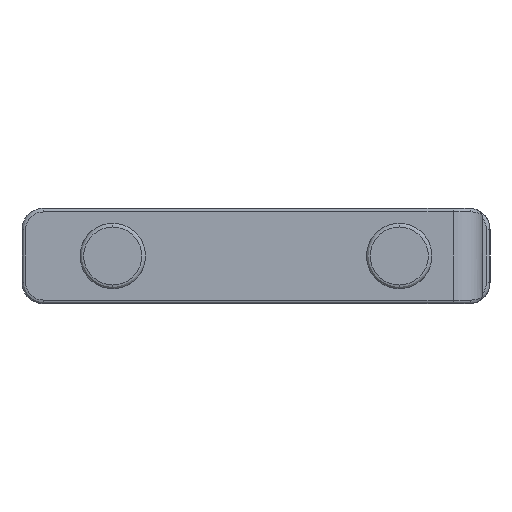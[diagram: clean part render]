
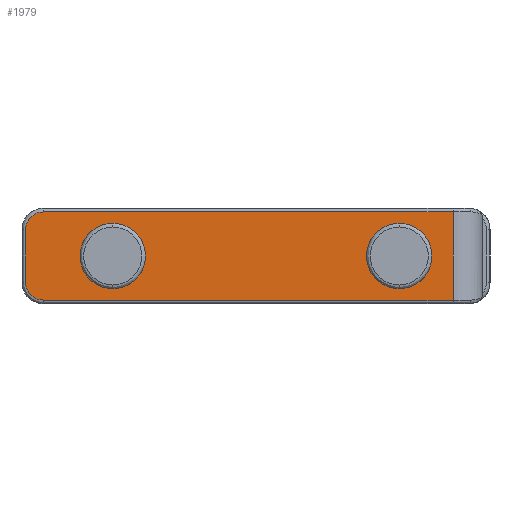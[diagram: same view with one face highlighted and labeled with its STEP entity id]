
A CAD part, left-side view. The second image highlights one B-rep face of the part: STEP entity #1979.
In plain terms, the highlighted planar face has unit normal (-1, 0, 0).
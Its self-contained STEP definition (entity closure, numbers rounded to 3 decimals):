
#26 = EDGE_CURVE ( 'NONE', #3220, #195, #351, .T. ) ;
#27 = ORIENTED_EDGE ( 'NONE', *, *, #188, .F. ) ;
#28 = ORIENTED_EDGE ( 'NONE', *, *, #26, .F. ) ;
#68 = EDGE_LOOP ( 'NONE', ( #28, #27 ) ) ;
#92 = EDGE_CURVE ( 'NONE', #105, #101, #437, .T. ) ;
#94 = EDGE_CURVE ( 'NONE', #101, #1990, #482, .T. ) ;
#97 = ORIENTED_EDGE ( 'NONE', *, *, #92, .T. ) ;
#101 = VERTEX_POINT ( 'NONE', #514 ) ;
#105 = VERTEX_POINT ( 'NONE', #501 ) ;
#106 = ORIENTED_EDGE ( 'NONE', *, *, #94, .T. ) ;
#122 = EDGE_CURVE ( 'NONE', #3121, #105, #383, .T. ) ;
#188 = EDGE_CURVE ( 'NONE', #195, #3220, #1059, .T. ) ;
#190 = VERTEX_POINT ( 'NONE', #1054 ) ;
#195 = VERTEX_POINT ( 'NONE', #1053 ) ;
#200 = VERTEX_POINT ( 'NONE', #1048 ) ;
#202 = EDGE_CURVE ( 'NONE', #190, #200, #1040, .T. ) ;
#338 = DIRECTION ( 'NONE',  ( 0., 0., -1. ) ) ;
#339 = DIRECTION ( 'NONE',  ( -1., 0., 0. ) ) ;
#349 = CARTESIAN_POINT ( 'NONE',  ( -358.2, -19.5, 0. ) ) ;
#350 = AXIS2_PLACEMENT_3D ( 'NONE', #349, #339, #338 ) ;
#351 = CIRCLE ( 'NONE', #350, 4.45 ) ;
#380 = DIRECTION ( 'NONE',  ( 0., 0., -1. ) ) ;
#381 = VECTOR ( 'NONE', #380, 1000. ) ;
#382 = CARTESIAN_POINT ( 'NONE',  ( -358.2, 31.35, -3.6 ) ) ;
#383 = LINE ( 'NONE', #382, #381 ) ;
#433 = CARTESIAN_POINT ( 'NONE',  ( -358.2, 28.95, -3.6 ) ) ;
#436 = AXIS2_PLACEMENT_3D ( 'NONE', #433, #438, #440 ) ;
#437 = CIRCLE ( 'NONE', #436, 2.4 ) ;
#438 = DIRECTION ( 'NONE',  ( -1., 0., 0. ) ) ;
#439 = VECTOR ( 'NONE', #442, 1000. ) ;
#440 = DIRECTION ( 'NONE',  ( 0., 0., -1. ) ) ;
#442 = DIRECTION ( 'NONE',  ( 0., -1., 0. ) ) ;
#481 = CARTESIAN_POINT ( 'NONE',  ( -358.2, -26.82, -6. ) ) ;
#482 = LINE ( 'NONE', #481, #439 ) ;
#501 = CARTESIAN_POINT ( 'NONE',  ( -358.2, 31.35, -3.6 ) ) ;
#514 = CARTESIAN_POINT ( 'NONE',  ( -358.2, 28.95, -6. ) ) ;
#595 = EDGE_CURVE ( 'NONE', #1943, #598, #1314, .T. ) ;
#598 = VERTEX_POINT ( 'NONE', #1300 ) ;
#1036 = DIRECTION ( 'NONE',  ( 0., 0., -1. ) ) ;
#1037 = DIRECTION ( 'NONE',  ( -1., 0., 0. ) ) ;
#1038 = CARTESIAN_POINT ( 'NONE',  ( -358.2, 19.5, 0. ) ) ;
#1039 = AXIS2_PLACEMENT_3D ( 'NONE', #1038, #1037, #1036 ) ;
#1040 = CIRCLE ( 'NONE', #1039, 4.45 ) ;
#1048 = CARTESIAN_POINT ( 'NONE',  ( -358.2, 19.5, -4.45 ) ) ;
#1053 = CARTESIAN_POINT ( 'NONE',  ( -358.2, -19.5, 4.45 ) ) ;
#1054 = CARTESIAN_POINT ( 'NONE',  ( -358.2, 19.5, 4.45 ) ) ;
#1055 = DIRECTION ( 'NONE',  ( 0., 0., -1. ) ) ;
#1056 = DIRECTION ( 'NONE',  ( -1., 0., 0. ) ) ;
#1057 = CARTESIAN_POINT ( 'NONE',  ( -358.2, -19.5, 0. ) ) ;
#1058 = AXIS2_PLACEMENT_3D ( 'NONE', #1057, #1056, #1055 ) ;
#1059 = CIRCLE ( 'NONE', #1058, 4.45 ) ;
#1300 = CARTESIAN_POINT ( 'NONE',  ( -358.2, 28.95, 6. ) ) ;
#1311 = DIRECTION ( 'NONE',  ( 0., 1., 0. ) ) ;
#1312 = VECTOR ( 'NONE', #1311, 1000. ) ;
#1313 = CARTESIAN_POINT ( 'NONE',  ( -358.2, 28.95, 6. ) ) ;
#1314 = LINE ( 'NONE', #1313, #1312 ) ;
#1943 = VERTEX_POINT ( 'NONE', #2828 ) ;
#1944 = EDGE_CURVE ( 'NONE', #1943, #1990, #2827, .T. ) ;
#1953 = ORIENTED_EDGE ( 'NONE', *, *, #202, .F. ) ;
#1958 = EDGE_LOOP ( 'NONE', ( #1959, #1991, #3123, #3118, #97, #106 ) ) ;
#1959 = ORIENTED_EDGE ( 'NONE', *, *, #1944, .F. ) ;
#1969 = EDGE_LOOP ( 'NONE', ( #1975, #1953 ) ) ;
#1970 = EDGE_CURVE ( 'NONE', #200, #190, #2823, .T. ) ;
#1975 = ORIENTED_EDGE ( 'NONE', *, *, #1970, .F. ) ;
#1979 = ADVANCED_FACE ( 'NONE', ( #2885, #2884, #2883 ), #2882, .F. ) ;
#1990 = VERTEX_POINT ( 'NONE', #2877 ) ;
#1991 = ORIENTED_EDGE ( 'NONE', *, *, #595, .T. ) ;
#2822 = AXIS2_PLACEMENT_3D ( 'NONE', #2888, #2887, #2886 ) ;
#2823 = CIRCLE ( 'NONE', #2822, 4.45 ) ;
#2824 = DIRECTION ( 'NONE',  ( 0., 0., -1. ) ) ;
#2825 = VECTOR ( 'NONE', #2824, 1000. ) ;
#2826 = CARTESIAN_POINT ( 'NONE',  ( -358.2, -26.82, -7.5 ) ) ;
#2827 = LINE ( 'NONE', #2826, #2825 ) ;
#2828 = CARTESIAN_POINT ( 'NONE',  ( -358.2, -26.82, 6. ) ) ;
#2860 = CARTESIAN_POINT ( 'NONE',  ( -358.2, 31.35, 3.6 ) ) ;
#2877 = CARTESIAN_POINT ( 'NONE',  ( -358.2, -26.82, -6. ) ) ;
#2878 = DIRECTION ( 'NONE',  ( 0., 0., -1. ) ) ;
#2879 = DIRECTION ( 'NONE',  ( 1., 0., 0. ) ) ;
#2880 = CARTESIAN_POINT ( 'NONE',  ( -358.2, -27.9, -2.9 ) ) ;
#2881 = AXIS2_PLACEMENT_3D ( 'NONE', #2880, #2879, #2878 ) ;
#2882 = PLANE ( 'NONE',  #2881 ) ;
#2883 = FACE_BOUND ( 'NONE', #68, .T. ) ;
#2884 = FACE_OUTER_BOUND ( 'NONE', #1958, .T. ) ;
#2885 = FACE_BOUND ( 'NONE', #1969, .T. ) ;
#2886 = DIRECTION ( 'NONE',  ( 0., 0., -1. ) ) ;
#2887 = DIRECTION ( 'NONE',  ( -1., 0., 0. ) ) ;
#2888 = CARTESIAN_POINT ( 'NONE',  ( -358.2, 19.5, 0. ) ) ;
#2915 = DIRECTION ( 'NONE',  ( 0., 0., -1. ) ) ;
#2916 = DIRECTION ( 'NONE',  ( -1., 0., 0. ) ) ;
#2917 = CARTESIAN_POINT ( 'NONE',  ( -358.2, 28.95, 3.6 ) ) ;
#2918 = AXIS2_PLACEMENT_3D ( 'NONE', #2917, #2916, #2915 ) ;
#2919 = CIRCLE ( 'NONE', #2918, 2.4 ) ;
#3043 = CARTESIAN_POINT ( 'NONE',  ( -358.2, -19.5, -4.45 ) ) ;
#3118 = ORIENTED_EDGE ( 'NONE', *, *, #122, .T. ) ;
#3121 = VERTEX_POINT ( 'NONE', #2860 ) ;
#3123 = ORIENTED_EDGE ( 'NONE', *, *, #3126, .T. ) ;
#3126 = EDGE_CURVE ( 'NONE', #598, #3121, #2919, .T. ) ;
#3220 = VERTEX_POINT ( 'NONE', #3043 ) ;
